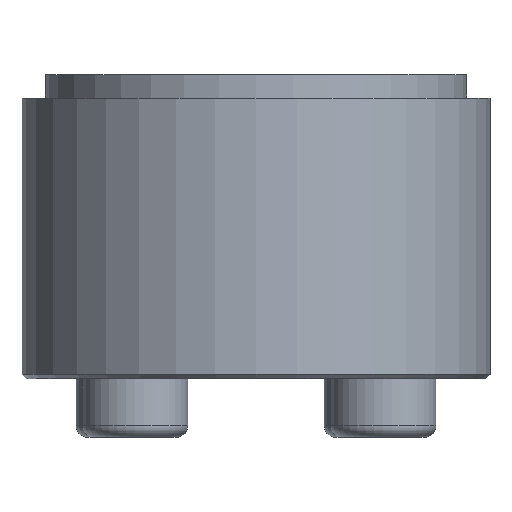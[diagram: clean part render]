
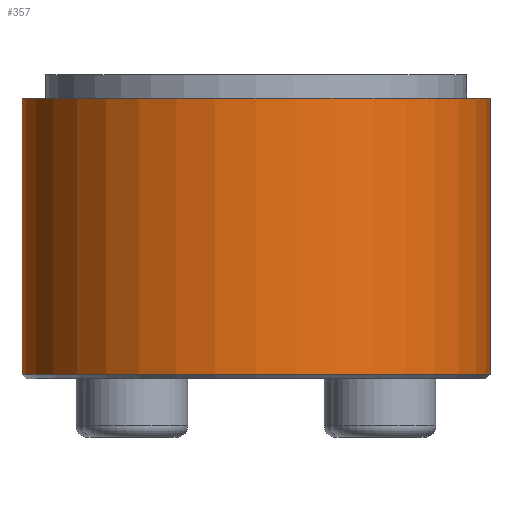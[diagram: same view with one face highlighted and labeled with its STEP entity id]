
A CAD part, front view. The second image highlights one B-rep face of the part: STEP entity #357.
In plain terms, the highlighted cylindrical face has radius 10 mm (diameter 20 mm), a partial arc.
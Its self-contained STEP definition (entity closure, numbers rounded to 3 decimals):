
#48 = CARTESIAN_POINT ( 'NONE',  ( 0., 0., 0. ) ) ;
#50 = CARTESIAN_POINT ( 'NONE',  ( 0., 0., 5.5 ) ) ;
#64 = DIRECTION ( 'NONE',  ( -1., 0., 0. ) ) ;
#163 = DIRECTION ( 'NONE',  ( 0., 0., -1. ) ) ;
#182 = ORIENTED_EDGE ( 'NONE', *, *, #1486, .F. ) ;
#223 = VERTEX_POINT ( 'NONE', #978 ) ;
#269 = CIRCLE ( 'NONE', #495, 10. ) ;
#357 = ADVANCED_FACE ( 'NONE', ( #623 ), #1755, .T. ) ;
#457 = DIRECTION ( 'NONE',  ( 0., 0., 1. ) ) ;
#470 = VERTEX_POINT ( 'NONE', #1043 ) ;
#495 = AXIS2_PLACEMENT_3D ( 'NONE', #578, #457, #1419 ) ;
#578 = CARTESIAN_POINT ( 'NONE',  ( 0., 0., -6.3 ) ) ;
#589 = AXIS2_PLACEMENT_3D ( 'NONE', #50, #163, #1528 ) ;
#623 = FACE_OUTER_BOUND ( 'NONE', #1140, .T. ) ;
#721 = CARTESIAN_POINT ( 'NONE',  ( -10., 0., 5.5 ) ) ;
#756 = DIRECTION ( 'NONE',  ( 0., 0., -1. ) ) ;
#820 = ORIENTED_EDGE ( 'NONE', *, *, #1180, .T. ) ;
#822 = VERTEX_POINT ( 'NONE', #721 ) ;
#858 = EDGE_CURVE ( 'NONE', #470, #1238, #269, .T. ) ;
#955 = AXIS2_PLACEMENT_3D ( 'NONE', #48, #756, #64 ) ;
#976 = DIRECTION ( 'NONE',  ( 0., 0., -1. ) ) ;
#978 = CARTESIAN_POINT ( 'NONE',  ( 10., 0., 5.5 ) ) ;
#1043 = CARTESIAN_POINT ( 'NONE',  ( -10., 0., -6.3 ) ) ;
#1098 = ORIENTED_EDGE ( 'NONE', *, *, #1543, .T. ) ;
#1126 = LINE ( 'NONE', #1680, #1639 ) ;
#1140 = EDGE_LOOP ( 'NONE', ( #182, #820, #1098, #1296 ) ) ;
#1180 = EDGE_CURVE ( 'NONE', #223, #822, #1387, .T. ) ;
#1238 = VERTEX_POINT ( 'NONE', #1689 ) ;
#1256 = DIRECTION ( 'NONE',  ( 0., 0., -1. ) ) ;
#1296 = ORIENTED_EDGE ( 'NONE', *, *, #858, .T. ) ;
#1327 = VECTOR ( 'NONE', #976, 1000. ) ;
#1387 = CIRCLE ( 'NONE', #589, 10. ) ;
#1419 = DIRECTION ( 'NONE',  ( -1., 0., 0. ) ) ;
#1486 = EDGE_CURVE ( 'NONE', #223, #1238, #1750, .T. ) ;
#1528 = DIRECTION ( 'NONE',  ( 1., 0., 0. ) ) ;
#1543 = EDGE_CURVE ( 'NONE', #822, #470, #1126, .T. ) ;
#1639 = VECTOR ( 'NONE', #1256, 1000. ) ;
#1641 = CARTESIAN_POINT ( 'NONE',  ( 10., 0., 0. ) ) ;
#1680 = CARTESIAN_POINT ( 'NONE',  ( -10., 0., 0. ) ) ;
#1689 = CARTESIAN_POINT ( 'NONE',  ( 10., 0., -6.3 ) ) ;
#1750 = LINE ( 'NONE', #1641, #1327 ) ;
#1755 = CYLINDRICAL_SURFACE ( 'NONE', #955, 10. ) ;
